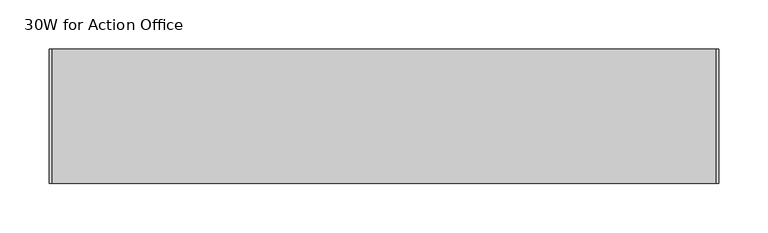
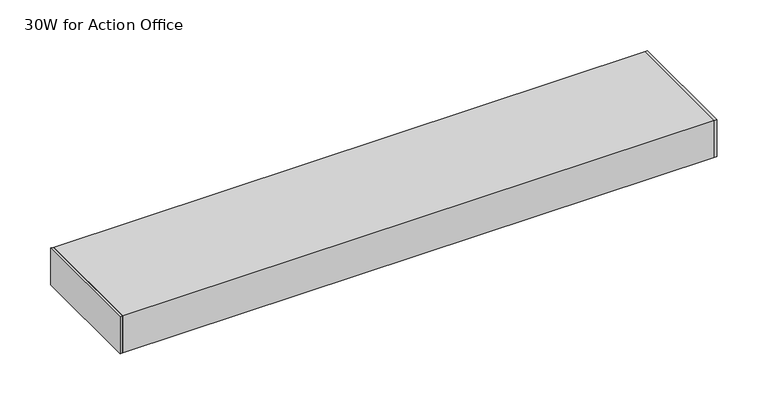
"""IFC4 building model written with IfcOpenShell, lengths in millimetres: light fixture geometry, HermanMiller_SupplementalProducts_G6170_EUnderShelfLEDTaskLight : 30W for Action Office."""

from ifc_helpers import new_model, si_unit, point, frame, frame_2d, origin, place, context, project, spatial, polyline, circle_curve, trimmed, segment, composite_curve, outline, extrude, source, transform, mapped, element, save


def light_fixture_30w_for_action_office_7462b566(model_context):
    return source(origin(), model_context, "Body", "SweptSolid", [
        extrude(outline(composite_curve([segment(trimmed(circle_curve(frame_2d((-4.699, 1211.2625)), 9.525), [point((-14.224, 1211.2625))], [point((4.826, 1211.2625))], False, "CARTESIAN"), True, "CONTINUOUS"), segment(trimmed(circle_curve(frame_2d((-4.699, 1211.2625)), 9.525), [point((4.826, 1211.2625))], [point((-14.224, 1211.2625))], False, "CARTESIAN"), True, "CONTINUOUS")], self_intersect=False)), frame((314.325, 0.0, 0.0), z_axis=(1.0, 0.0, 0.0), x_axis=(0.0, 1.0, 0.0)), (0.0, 0.0, 1.0), 12.7),
        extrude(outline(composite_curve([segment(trimmed(circle_curve(frame_2d((-4.699, 1211.2625)), 9.525), [point((-14.224, 1211.2625))], [point((4.826, 1211.2625))], False, "CARTESIAN"), True, "CONTINUOUS"), segment(trimmed(circle_curve(frame_2d((-4.699, 1211.2625)), 9.525), [point((4.826, 1211.2625))], [point((-14.224, 1211.2625))], False, "CARTESIAN"), True, "CONTINUOUS")], self_intersect=False)), frame((-327.025, 0.0, 0.0), z_axis=(1.0, 0.0, 0.0), x_axis=(0.0, 1.0, 0.0)), (0.0, 0.0, 1.0), 12.7),
        extrude(outline(composite_curve([segment(trimmed(circle_curve(frame_2d((-4.699, 1211.2625)), 9.525), [point((-14.224, 1211.2625))], [point((4.826, 1211.2625))], False, "CARTESIAN"), True, "CONTINUOUS"), segment(trimmed(circle_curve(frame_2d((-4.699, 1211.2625)), 9.525), [point((4.826, 1211.2625))], [point((-14.224, 1211.2625))], False, "CARTESIAN"), True, "CONTINUOUS")], self_intersect=False)), frame((-314.325, 0.0, 0.0), z_axis=(1.0, 0.0, 0.0), x_axis=(0.0, 1.0, 0.0)), (0.0, 0.0, 1.0), 628.65),
        extrude(outline(polyline([(336.55, 68.326), (336.55, -68.326), (-336.55, -68.326), (-336.55, 68.326), (336.55, 68.326)])), frame((0.0, 0.0, 1181.1), z_axis=(0.0, 0.0, 1.0), x_axis=(1.0, 0.0, 0.0)), (0.0, 0.0, 1.0), 44.45),
        extrude(outline(polyline([(336.55, -68.326), (336.55, 68.326), (339.725, 68.326), (339.725, -68.326), (336.55, -68.326)])), frame((0.0, 0.0, 1181.1), z_axis=(0.0, 0.0, 1.0), x_axis=(1.0, 0.0, 0.0)), (0.0, 0.0, 1.0), 44.45),
        extrude(outline(polyline([(-336.55, 68.326), (-336.55, -68.326), (-339.725, -68.326), (-339.725, 68.326), (-336.55, 68.326)])), frame((0.0, 0.0, 1181.1), z_axis=(0.0, 0.0, 1.0), x_axis=(1.0, 0.0, 0.0)), (0.0, 0.0, 1.0), 44.45),
    ])


if __name__ == "__main__":
    model = new_model("IFC4")
    model_context = context("Model", 3, world=origin())
    ifc_project = project(units=[si_unit("LENGTHUNIT", "METRE", prefix="MILLI")], contexts=[model_context])
    site = spatial("IfcSite", under=ifc_project)
    building = spatial("IfcBuilding", under=site)
    placement = place(None, origin())
    light_fixture_30w_for_action_office_shape = light_fixture_30w_for_action_office_7462b566(model_context)
    element("IfcLightFixture", 1, ObjectType="HermanMiller_SupplementalProducts_G6170_EUnderShelfLEDTaskLight : 30W for Action Office", at=placement, inside=building, context=model_context, shape_type="MappedRepresentation", body=[
        mapped(light_fixture_30w_for_action_office_shape, transform((0.0, 0.0, 0.0), x_axis=(1.0, 0.0, 0.0), y_axis=(0.0, 1.0, 0.0), z_axis=(0.0, 0.0, 1.0))),
    ])
    save(model, "model.ifc")
